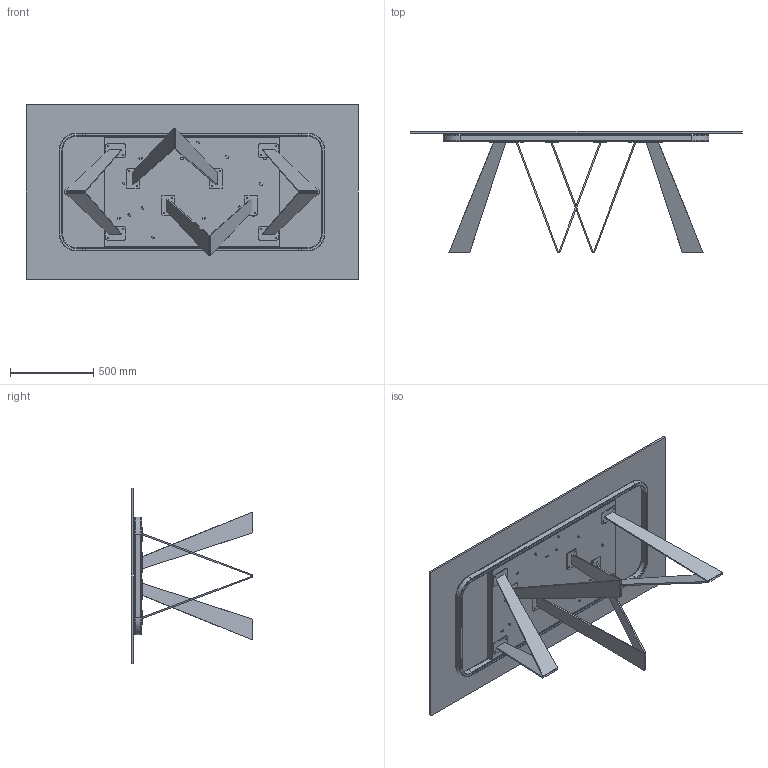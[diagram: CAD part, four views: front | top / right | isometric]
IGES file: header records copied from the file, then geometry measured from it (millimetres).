
Start section: SolidWorks IGES file using analytic representation for surfaces
Global section: file name: Y:\eforma\TECNICO\SOLIDWORKS\E-FORMA\1-TAVOLI\NOA TAVOLO\02 parts\NO21G_Noa_200x106x75h_Glass Rectangular.IGS; native system: SolidWorks 2022; preprocessor: SolidWorks 2022; author: eforma.tech; date: 240807.161452; units: millimetre
Bounding box: 2000 x 731.8 x 1060 mm (x, y, z)
Volume: 34537314 mm3; surface area: 8319455.3 mm2
Topology: 26 solids, 26 shells, 652 faces, 1652 edges, 1052 vertices
Faces by surface type: revolution 344, plane 308
